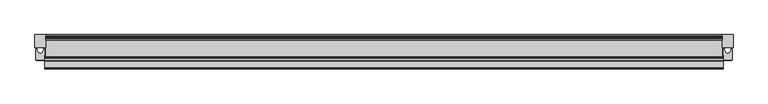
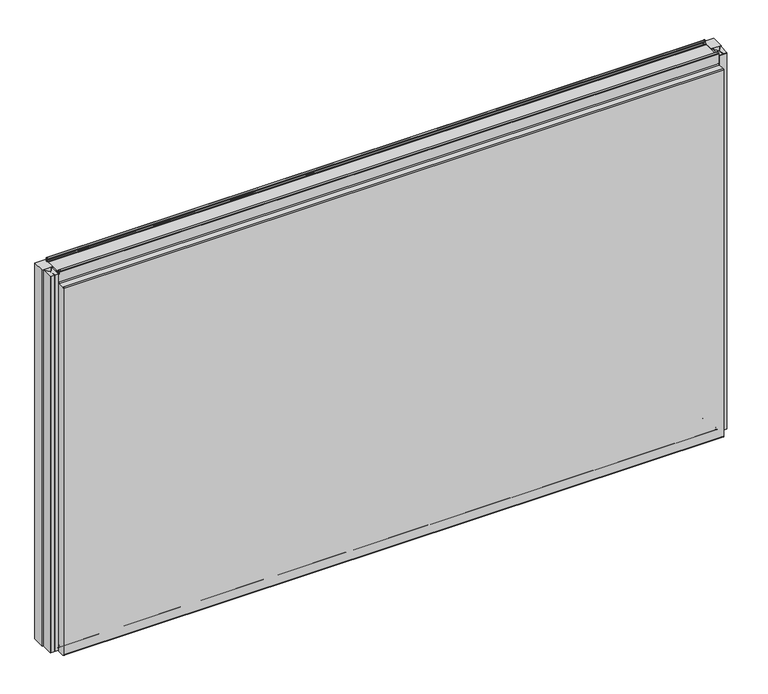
"""IFC4 building model written with IfcOpenShell, lengths in millimetres: plate geometry, Fronttop : Fronttop 100/1190."""

from ifc_helpers import new_model, si_unit, point, frame, frame_2d, origin, origin_with_axes, place, context, project, spatial, polyline, circle_curve, trimmed, segment, composite_curve, outline, extrude, source, transform, mapped, element, save
from ifc_brep_helpers import plane_surface, cylinder_surface, revolved_surface, advanced_brep


def plate_e143cc12(model_context):
    return source(origin(), model_context, "Body", "SolidModel", [
        advanced_brep(
        [(-986.5, -74.0, 1198.0), (-986.5, -74.0, 1190.0), (-986.5, -75.0, 1190.0), (-986.5, -75.0, 1198.0), (-986.5, -70.0, 1198.0), (-986.5, -70.0, 1194.0), (-986.5, -67.0, 1191.0), (-986.5, -65.0, 1191.0), (-986.5, -65.0, 1190.0), (-986.5, -67.0, 1190.0), (-986.5, -71.0, 1194.0), (-986.5, -71.0, 1198.0), (986.5, -75.0, 1198.0), (986.5, -75.0, 1190.0), (986.5, -74.0, 1190.0), (986.5, -74.0, 1198.0), (986.5, -71.0, 1198.0), (986.5, -71.0, 1194.0), (986.5, -67.0, 1190.0), (986.5, -65.0, 1190.0), (986.5, -65.0, 1191.0), (986.5, -67.0, 1191.0), (986.5, -70.0, 1194.0), (986.5, -70.0, 1198.0), (-986.5, -67.0, 2.0), (-986.5, -65.0, 2.0), (986.5, -65.0, 2.0), (986.5, -67.0, 2.0), (986.5, -69.0, 4.0), (-986.5, -69.0, 4.0), (986.5, -69.0, 8.0), (-986.5, -69.0, 8.0), (986.5, -76.0, 8.0), (-986.5, -76.0, 8.0), (986.5, -76.0, 0.0), (-986.5, -76.0, 0.0), (986.5, -79.0, -3.0), (-986.5, -79.0, -3.0), (986.5, -75.0, -3.0), (987.5, -75.0, -3.0), (987.5, -97.0, -3.0), (986.5, -97.0, -3.0), (-986.5, -97.0, -3.0), (-987.5, -97.0, -3.0), (-987.5, -75.0, -3.0), (-986.5, -75.0, -3.0), (986.5, -100.0, 0.0), (-986.5, -100.0, 0.0), (987.5, -100.0, 0.0), (987.5, -100.0, 1159.0), (986.5, -100.0, 1159.0), (-986.5, -100.0, 1159.0), (-987.5, -100.0, 1159.0), (-987.5, -100.0, 0.0), (986.5, -97.0, 1162.0), (-986.5, -97.0, 1162.0), (987.5, -97.0, 1162.0), (987.5, -78.0, 1162.0), (986.5, -78.0, 1162.0), (-986.5, -78.0, 1162.0), (-987.5, -78.0, 1162.0), (-987.5, -97.0, 1162.0), (986.5, -75.0, 1165.0), (-986.5, -75.0, 1165.0), (987.5, -75.0, 1165.0), (987.5, -75.0, 1190.0), (-987.5, -75.0, 1190.0), (-987.5, -75.0, 1165.0), (986.5, -74.0, 1165.0), (-986.5, -74.0, 1165.0), (986.5, -78.0, 1161.0), (-986.5, -78.0, 1161.0), (986.5, -97.0, 1161.0), (-986.5, -97.0, 1161.0), (986.5, -99.0, 1159.0), (-986.5, -99.0, 1159.0), (986.5, -99.0, 0.0), (-986.5, -99.0, 0.0), (986.5, -97.0, -2.0), (-986.5, -97.0, -2.0), (986.5, -79.0, -2.0), (-986.5, -79.0, -2.0), (986.5, -77.0, 0.0), (-986.5, -77.0, 0.0), (986.5, -77.0, 8.0), (-986.5, -77.0, 8.0), (986.5, -68.0, 8.0), (-986.5, -68.0, 8.0), (986.5, -68.0, 4.0), (-986.5, -68.0, 4.0), (986.5, -67.0, 3.0), (-986.5, -67.0, 3.0), (986.5, -65.0, 3.0), (-986.5, -65.0, 3.0), (987.5, -75.0, 0.0), (987.5, -60.0, 0.0), (987.5, -60.0, 1190.0), (986.5, -60.0, 1190.0), (986.5, -60.0, 0.0), (986.5, -75.0, 0.0), (-987.5, -60.0, 1190.0), (-987.5, -60.0, 0.0), (-987.5, -75.0, 0.0), (-986.5, -60.0, 1190.0), (-986.5, -75.0, 0.0), (-986.5, -60.0, 0.0)],
        [
            (0, 1),
            (1, 2),
            (2, 3),
            (3, 4, circle_curve(frame((-986.5, -72.5, 1198.0), z_axis=(-1.0, 0.0, 0.0), x_axis=(0.0, 1.0, 0.0)), 2.5)),
            (4, 5),
            (5, 6, circle_curve(frame((-986.5, -67.0, 1194.0), z_axis=(1.0, 0.0, 0.0), x_axis=(0.0, 1.0, 0.0)), 3.0)),
            (6, 7),
            (7, 8),
            (8, 9),
            (9, 10, circle_curve(frame((-986.5, -67.0, 1194.0), z_axis=(-1.0, 0.0, 0.0), x_axis=(0.0, 1.0, 0.0)), 4.0)),
            (10, 11),
            (11, 0, circle_curve(frame((-986.5, -72.5, 1198.0), z_axis=(1.0, 0.0, 0.0), x_axis=(0.0, 1.0, 0.0)), 1.5)),
            (12, 13),
            (13, 14),
            (14, 15),
            (15, 16, circle_curve(frame((986.5, -72.5, 1198.0), z_axis=(-1.0, 0.0, 0.0), x_axis=(0.0, 1.0, 0.0)), 1.5)),
            (16, 17),
            (17, 18, circle_curve(frame((986.5, -67.0, 1194.0), z_axis=(1.0, 0.0, 0.0), x_axis=(0.0, 1.0, 0.0)), 4.0)),
            (18, 19),
            (19, 20),
            (20, 21),
            (21, 22, circle_curve(frame((986.5, -67.0, 1194.0), z_axis=(-1.0, 0.0, 0.0), x_axis=(0.0, 1.0, 0.0)), 3.0)),
            (22, 23),
            (23, 12, circle_curve(frame((986.5, -72.5, 1198.0), z_axis=(1.0, 0.0, 0.0), x_axis=(0.0, 1.0, 0.0)), 2.5)),
            (24, 25),
            (25, 26),
            (26, 27),
            (27, 24),
            (27, 28, circle_curve(frame((986.5, -67.0, 4.0), z_axis=(-1.0, 0.0, 0.0), x_axis=(0.0, 1.0, 0.0)), 2.0)),
            (28, 29),
            (29, 24, circle_curve(frame((-986.5, -67.0, 4.0), z_axis=(1.0, 0.0, 0.0), x_axis=(0.0, 1.0, 0.0)), 2.0)),
            (28, 30),
            (30, 31),
            (31, 29),
            (30, 32, circle_curve(frame((986.5, -72.5, 8.0), z_axis=(1.0, 0.0, 0.0), x_axis=(0.0, 1.0, 0.0)), 3.5)),
            (32, 33),
            (33, 31, circle_curve(frame((-986.5, -72.5, 8.0), z_axis=(-1.0, 0.0, 0.0), x_axis=(0.0, 1.0, 0.0)), 3.5)),
            (32, 34),
            (34, 35),
            (35, 33),
            (34, 36, circle_curve(frame((986.5, -79.0, 0.0), z_axis=(-1.0, 0.0, 0.0), x_axis=(0.0, 1.0, 0.0)), 3.0)),
            (36, 37),
            (37, 35, circle_curve(frame((-986.5, -79.0, 0.0), z_axis=(1.0, 0.0, 0.0), x_axis=(0.0, 1.0, 0.0)), 3.0)),
            (36, 38),
            (38, 39),
            (39, 40),
            (40, 41),
            (41, 42),
            (42, 43),
            (43, 44),
            (44, 45),
            (45, 37),
            (41, 46, circle_curve(frame((986.5, -97.0, 0.0), z_axis=(-1.0, 0.0, 0.0), x_axis=(0.0, 1.0, 0.0)), 3.0)),
            (46, 47),
            (47, 42, circle_curve(frame((-986.5, -97.0, 0.0), z_axis=(1.0, 0.0, 0.0), x_axis=(0.0, 1.0, 0.0)), 3.0)),
            (46, 48),
            (48, 49),
            (49, 50),
            (50, 51),
            (51, 52),
            (52, 53),
            (53, 47),
            (50, 54, circle_curve(frame((986.5, -97.0, 1159.0), z_axis=(-1.0, 0.0, 0.0), x_axis=(0.0, 1.0, 0.0)), 3.0)),
            (54, 55),
            (55, 51, circle_curve(frame((-986.5, -97.0, 1159.0), z_axis=(1.0, 0.0, 0.0), x_axis=(0.0, 1.0, 0.0)), 3.0)),
            (54, 56),
            (56, 57),
            (57, 58),
            (58, 59),
            (59, 60),
            (60, 61),
            (61, 55),
            (58, 62, circle_curve(frame((986.5, -78.0, 1165.0), z_axis=(1.0, 0.0, 0.0), x_axis=(0.0, 1.0, 0.0)), 3.0)),
            (62, 63),
            (63, 59, circle_curve(frame((-986.5, -78.0, 1165.0), z_axis=(-1.0, 0.0, 0.0), x_axis=(0.0, 1.0, 0.0)), 3.0)),
            (62, 64),
            (64, 65),
            (65, 13),
            (12, 3),
            (2, 66),
            (66, 67),
            (67, 63),
            (23, 4),
            (22, 5),
            (21, 6),
            (20, 7),
            (19, 8),
            (19, 18),
            (18, 9),
            (9, 8),
            (17, 10),
            (16, 11),
            (15, 0),
            (14, 68),
            (68, 69),
            (69, 1),
            (68, 70, circle_curve(frame((986.5, -78.0, 1165.0), z_axis=(-1.0, 0.0, 0.0), x_axis=(0.0, 1.0, 0.0)), 4.0)),
            (70, 71),
            (71, 69, circle_curve(frame((-986.5, -78.0, 1165.0), z_axis=(1.0, 0.0, 0.0), x_axis=(0.0, 1.0, 0.0)), 4.0)),
            (70, 72),
            (72, 73),
            (73, 71),
            (72, 74, circle_curve(frame((986.5, -97.0, 1159.0), z_axis=(1.0, 0.0, 0.0), x_axis=(0.0, 1.0, 0.0)), 2.0)),
            (74, 75),
            (75, 73, circle_curve(frame((-986.5, -97.0, 1159.0), z_axis=(-1.0, 0.0, 0.0), x_axis=(0.0, 1.0, 0.0)), 2.0)),
            (74, 76),
            (76, 77),
            (77, 75),
            (76, 78, circle_curve(frame((986.5, -97.0, 0.0), z_axis=(1.0, 0.0, 0.0), x_axis=(0.0, 1.0, 0.0)), 2.0)),
            (78, 79),
            (79, 77, circle_curve(frame((-986.5, -97.0, 0.0), z_axis=(-1.0, 0.0, 0.0), x_axis=(0.0, 1.0, 0.0)), 2.0)),
            (78, 80),
            (80, 81),
            (81, 79),
            (80, 82, circle_curve(frame((986.5, -79.0, 0.0), z_axis=(1.0, 0.0, 0.0), x_axis=(0.0, 1.0, 0.0)), 2.0)),
            (82, 83),
            (83, 81, circle_curve(frame((-986.5, -79.0, 0.0), z_axis=(-1.0, 0.0, 0.0), x_axis=(0.0, 1.0, 0.0)), 2.0)),
            (82, 84),
            (84, 85),
            (85, 83),
            (84, 86, circle_curve(frame((986.5, -72.5, 8.0), z_axis=(-1.0, 0.0, 0.0), x_axis=(0.0, 1.0, 0.0)), 4.5)),
            (86, 87),
            (87, 85, circle_curve(frame((-986.5, -72.5, 8.0), z_axis=(1.0, 0.0, 0.0), x_axis=(0.0, 1.0, 0.0)), 4.5)),
            (86, 88),
            (88, 89),
            (89, 87),
            (88, 90, circle_curve(frame((986.5, -67.0, 4.0), z_axis=(1.0, 0.0, 0.0), x_axis=(0.0, 1.0, 0.0)), 1.0)),
            (90, 91),
            (91, 89, circle_curve(frame((-986.5, -67.0, 4.0), z_axis=(-1.0, 0.0, 0.0), x_axis=(0.0, 1.0, 0.0)), 1.0)),
            (90, 92),
            (92, 93),
            (93, 91),
            (25, 93),
            (92, 26),
            (64, 57, circle_curve(frame((987.5, -78.0, 1165.0), z_axis=(-1.0, 0.0, 0.0), x_axis=(0.0, -1.0, 0.0)), 3.0)),
            (56, 49, circle_curve(frame((987.5, -97.0, 1159.0), z_axis=(1.0, 0.0, 0.0), x_axis=(0.0, -1.0, 0.0)), 3.0)),
            (48, 40, circle_curve(frame((987.5, -97.0, 0.0), z_axis=(1.0, 0.0, 0.0), x_axis=(0.0, -1.0, 0.0)), 3.0)),
            (39, 94),
            (94, 95),
            (95, 96),
            (96, 65),
            (14, 18),
            (19, 97),
            (97, 98),
            (98, 99),
            (99, 38),
            (96, 97),
            (95, 98),
            (94, 99),
            (66, 100),
            (100, 101),
            (101, 102),
            (102, 44),
            (43, 53, circle_curve(frame((-987.5, -97.0, 0.0), z_axis=(-1.0, 0.0, 0.0), x_axis=(0.0, -1.0, 0.0)), 3.0)),
            (52, 61, circle_curve(frame((-987.5, -97.0, 1159.0), z_axis=(-1.0, 0.0, 0.0), x_axis=(0.0, -1.0, 0.0)), 3.0)),
            (60, 67, circle_curve(frame((-987.5, -78.0, 1165.0), z_axis=(1.0, 0.0, 0.0), x_axis=(0.0, -1.0, 0.0)), 3.0)),
            (103, 8),
            (9, 1),
            (45, 104),
            (104, 105),
            (105, 103),
            (103, 100),
            (105, 101),
            (104, 102),
        ],
        [
            plane_surface(frame((-986.5, 0.0, 0.0), z_axis=(-1.0, 0.0, 0.0), x_axis=(0.0, 0.0, 1.0))),
            plane_surface(frame((986.5, 0.0, 0.0), z_axis=(1.0, 0.0, 0.0), x_axis=(0.0, 0.0, 1.0))),
            plane_surface(frame((-986.5, -67.0, 2.0), z_axis=(0.0, 0.0, -1.0), x_axis=(1.0, 0.0, 0.0))),
            cylinder_surface(frame((-986.5, -67.0, 4.0), z_axis=(-1.0, 0.0, 0.0), x_axis=(0.0, 1.0, 0.0)), 2.0),
            plane_surface(frame((-986.5, -69.0, 8.0), z_axis=(0.0, -1.0, 0.0), x_axis=(1.0, 0.0, 0.0))),
            revolved_surface(polyline([(986.5, -69.0, 8.0), (-986.5, -69.0, 8.0)]), (-986.5, -72.5, 8.0), (1.0, 0.0, 0.0)),
            plane_surface(frame((-986.5, -76.0, 0.0), z_axis=(0.0, 1.0, 0.0), x_axis=(1.0, 0.0, 0.0))),
            cylinder_surface(frame((-986.5, -79.0, 0.0), z_axis=(-1.0, 0.0, 0.0), x_axis=(0.0, 1.0, 0.0)), 3.0),
            plane_surface(frame((-986.5, -97.0, -3.0), z_axis=(0.0, 0.0, -1.0), x_axis=(1.0, 0.0, 0.0))),
            cylinder_surface(frame((-986.5, -97.0, 0.0), z_axis=(-1.0, 0.0, 0.0), x_axis=(0.0, 1.0, 0.0)), 3.0),
            plane_surface(frame((-986.5, -100.0, 1159.0), z_axis=(0.0, -1.0, 0.0), x_axis=(1.0, 0.0, 0.0))),
            cylinder_surface(frame((-986.5, -97.0, 1159.0), z_axis=(-1.0, 0.0, 0.0), x_axis=(0.0, 1.0, 0.0)), 3.0),
            plane_surface(frame((-986.5, -78.0, 1162.0), z_axis=(0.0, 0.0, 1.0), x_axis=(1.0, 0.0, 0.0))),
            revolved_surface(polyline([(986.5, -75.0, 1165.0), (-986.5, -75.0, 1165.0)]), (-986.5, -78.0, 1165.0), (1.0, 0.0, 0.0)),
            plane_surface(frame((-986.5, -75.0, 1198.0), z_axis=(0.0, -1.0, 0.0), x_axis=(1.0, 0.0, 0.0))),
            cylinder_surface(frame((-986.5, -72.5, 1198.0), z_axis=(-1.0, 0.0, 0.0), x_axis=(0.0, 1.0, 0.0)), 2.5),
            plane_surface(frame((-986.5, -70.0, 1194.0), z_axis=(0.0, 1.0, 0.0), x_axis=(1.0, 0.0, 0.0))),
            revolved_surface(polyline([(986.5, -64.0, 1194.0), (-986.5, -64.0, 1194.0)]), (-986.5, -67.0, 1194.0), (1.0, 0.0, 0.0)),
            plane_surface(frame((-986.5, -65.0, 1191.0), z_axis=(0.0, 0.0, 1.0), x_axis=(1.0, 0.0, 0.0))),
            plane_surface(frame((-986.5, -65.0, 1190.0), z_axis=(0.0, 1.0, 0.0), x_axis=(1.0, 0.0, 0.0))),
            plane_surface(frame((-986.5, -67.0, 1190.0), z_axis=(0.0, 0.0, -1.0), x_axis=(1.0, 0.0, 0.0))),
            cylinder_surface(frame((-986.5, -67.0, 1194.0), z_axis=(-1.0, 0.0, 0.0), x_axis=(0.0, 1.0, 0.0)), 4.0),
            plane_surface(frame((-986.5, -71.0, 1198.0), z_axis=(0.0, -1.0, 0.0), x_axis=(1.0, 0.0, 0.0))),
            revolved_surface(polyline([(986.5, -71.0, 1198.0), (-986.5, -71.0, 1198.0)]), (-986.5, -72.5, 1198.0), (1.0, 0.0, 0.0)),
            plane_surface(frame((-986.5, -74.0, 1165.0), z_axis=(0.0, 1.0, 0.0), x_axis=(1.0, 0.0, 0.0))),
            cylinder_surface(frame((-986.5, -78.0, 1165.0), z_axis=(-1.0, 0.0, 0.0), x_axis=(0.0, 1.0, 0.0)), 4.0),
            plane_surface(frame((-986.5, -97.0, 1161.0), z_axis=(0.0, 0.0, -1.0), x_axis=(1.0, 0.0, 0.0))),
            revolved_surface(polyline([(986.5, -95.0, 1159.0), (-986.5, -95.0, 1159.0)]), (-986.5, -97.0, 1159.0), (1.0, 0.0, 0.0)),
            plane_surface(frame((-986.5, -99.0, 0.0), z_axis=(0.0, 1.0, 0.0), x_axis=(1.0, 0.0, 0.0))),
            revolved_surface(polyline([(986.5, -95.0, 0.0), (-986.5, -95.0, 0.0)]), (-986.5, -97.0, 0.0), (1.0, 0.0, 0.0)),
            plane_surface(frame((-986.5, -79.0, -2.0), z_axis=(0.0, 0.0, 1.0), x_axis=(1.0, 0.0, 0.0))),
            revolved_surface(polyline([(986.5, -77.0, 0.0), (-986.5, -77.0, 0.0)]), (-986.5, -79.0, 0.0), (1.0, 0.0, 0.0)),
            plane_surface(frame((-986.5, -77.0, 8.0), z_axis=(0.0, -1.0, 0.0), x_axis=(1.0, 0.0, 0.0))),
            cylinder_surface(frame((-986.5, -72.5, 8.0), z_axis=(-1.0, 0.0, 0.0), x_axis=(0.0, 1.0, 0.0)), 4.5),
            plane_surface(frame((-986.5, -68.0, 4.0), z_axis=(0.0, 1.0, 0.0), x_axis=(1.0, 0.0, 0.0))),
            revolved_surface(polyline([(986.5, -66.0, 4.0), (-986.5, -66.0, 4.0)]), (-986.5, -67.0, 4.0), (1.0, 0.0, 0.0)),
            plane_surface(frame((-986.5, -65.0, 3.0), z_axis=(0.0, 0.0, 1.0), x_axis=(1.0, 0.0, 0.0))),
            plane_surface(frame((-986.5, -65.0, 2.0), z_axis=(0.0, 1.0, 0.0), x_axis=(1.0, 0.0, 0.0))),
            plane_surface(frame((987.5, -75.0, 1190.0), z_axis=(1.0, 0.0, 0.0), x_axis=(0.0, 1.0, 0.0))),
            plane_surface(frame((986.5, -75.0, 1190.0), z_axis=(-1.0, 0.0, 0.0), x_axis=(0.0, -1.0, 0.0))),
            plane_surface(frame((987.5, -75.0, 1190.0), z_axis=(0.0, 0.0, 1.0), x_axis=(-1.0, 0.0, 0.0))),
            plane_surface(frame((987.5, -60.0, 1190.0), z_axis=(0.0, 1.0, 0.0), x_axis=(-1.0, 0.0, 0.0))),
            plane_surface(frame((987.5, -60.0, 0.0), z_axis=(0.0, 0.0, -1.0), x_axis=(-1.0, 0.0, 0.0))),
            cylinder_surface(frame((986.5, -97.0, 0.0), z_axis=(1.0, 0.0, 0.0), x_axis=(0.0, -1.0, 0.0)), 3.0),
            cylinder_surface(frame((986.5, -97.0, 1159.0), z_axis=(1.0, 0.0, 0.0), x_axis=(0.0, -1.0, 0.0)), 3.0),
            revolved_surface(polyline([(986.5, -81.0, 1165.0), (987.5, -81.0, 1165.0)]), (986.5, -78.0, 1165.0), (-1.0, 0.0, 0.0)),
            plane_surface(frame((-987.5, -75.0, 1190.0), z_axis=(-1.0, 0.0, 0.0), x_axis=(0.0, -1.0, 0.0))),
            plane_surface(frame((-986.5, -75.0, 1190.0), z_axis=(1.0, 0.0, 0.0), x_axis=(0.0, 1.0, 0.0))),
            plane_surface(frame((-986.5, -75.0, 1190.0), z_axis=(0.0, 0.0, 1.0), x_axis=(-1.0, 0.0, 0.0))),
            plane_surface(frame((-986.5, -60.0, 1190.0), z_axis=(0.0, 1.0, 0.0), x_axis=(-1.0, 0.0, 0.0))),
            plane_surface(frame((-986.5, -60.0, 0.0), z_axis=(0.0, 0.0, -1.0), x_axis=(-1.0, 0.0, 0.0))),
            cylinder_surface(frame((-987.5, -97.0, 0.0), z_axis=(1.0, 0.0, 0.0), x_axis=(0.0, -1.0, 0.0)), 3.0),
            cylinder_surface(frame((-987.5, -97.0, 1159.0), z_axis=(1.0, 0.0, 0.0), x_axis=(0.0, -1.0, 0.0)), 3.0),
            revolved_surface(polyline([(-987.5, -81.0, 1165.0), (-986.5, -81.0, 1165.0)]), (-987.5, -78.0, 1165.0), (-1.0, 0.0, 0.0)),
            plane_surface(frame((987.5, -75.0, 0.0), z_axis=(0.0, 1.0, 0.0), x_axis=(-1.0, 0.0, 0.0))),
            plane_surface(frame((-986.5, -75.0, 0.0), z_axis=(0.0, 1.0, 0.0), x_axis=(-1.0, 0.0, 0.0))),
        ],
        [
            (0, [[1, 2, 3, 4, 5, 6, 7, 8, 9, 10, 11, 12]]),
            (1, [[13, 14, 15, 16, 17, 18, 19, 20, 21, 22, 23, 24]]),
            (2, [[25, 26, 27, 28]]),
            (3, [[29, 30, 31, -28]]),
            (4, [[32, 33, 34, -30]]),
            (5, [[35, 36, 37, -33]]),
            (6, [[38, 39, 40, -36]]),
            (7, [[41, 42, 43, -39]]),
            (8, [[44, 45, 46, 47, 48, 49, 50, 51, 52, -42]]),
            (9, [[53, 54, 55, -48]]),
            (10, [[56, 57, 58, 59, 60, 61, 62, -54]]),
            (11, [[63, 64, 65, -59]]),
            (12, [[66, 67, 68, 69, 70, 71, 72, -64]]),
            (13, [[73, 74, 75, -69]]),
            (14, [[76, 77, 78, -13, 79, -3, 80, 81, 82, -74]]),
            (15, [[-79, -24, 83, -4]]),
            (16, [[-83, -23, 84, -5]]),
            (17, [[-84, -22, 85, -6]]),
            (18, [[-85, -21, 86, -7]]),
            (19, [[-86, -20, 87, -8]]),
            (20, [[88, 89, 90, -87]]),
            (21, [[-89, -18, 91, -10]]),
            (22, [[-91, -17, 92, -11]]),
            (23, [[-92, -16, 93, -12]]),
            (24, [[-15, 94, 95, 96, -1, -93]]),
            (25, [[97, 98, 99, -95]]),
            (26, [[100, 101, 102, -98]]),
            (27, [[103, 104, 105, -101]]),
            (28, [[106, 107, 108, -104]]),
            (29, [[109, 110, 111, -107]]),
            (30, [[112, 113, 114, -110]]),
            (31, [[115, 116, 117, -113]]),
            (32, [[118, 119, 120, -116]]),
            (33, [[121, 122, 123, -119]]),
            (34, [[124, 125, 126, -122]]),
            (35, [[127, 128, 129, -125]]),
            (36, [[130, 131, 132, -128]]),
            (37, [[133, -131, 134, -26]]),
            (38, [[-77, 135, -67, 136, -57, 137, -46, 138, 139, 140, 141]]),
            (39, [[-44, -41, -38, -35, -32, -29, -27, -134, -130, -127, -124, -121, -118, -115, -112, -109, -106, -103, -100, -97, -94, 142, -88, 143, 144, 145, 146]]),
            (40, [[147, -143, -19, -142, -14, -78, -141]]),
            (41, [[148, -144, -147, -140]]),
            (42, [[149, -145, -148, -139]]),
            (43, [[-56, -53, -47, -137]]),
            (44, [[-66, -63, -58, -136]]),
            (45, [[-76, -73, -68, -135]]),
            (46, [[150, 151, 152, 153, -50, 154, -61, 155, -71, 156, -81]]),
            (47, [[157, -90, 158, -96, -99, -102, -105, -108, -111, -114, -117, -120, -123, -126, -129, -132, -133, -25, -31, -34, -37, -40, -43, -52, 159, 160, 161]]),
            (48, [[-80, -2, -158, -9, -157, 162, -150]]),
            (49, [[-162, -161, 163, -151]]),
            (50, [[-163, -160, 164, -152]]),
            (51, [[-49, -55, -62, -154]]),
            (52, [[-60, -65, -72, -155]]),
            (53, [[-70, -75, -82, -156]]),
            (54, [[-45, -146, -149, -138]]),
            (55, [[-164, -159, -51, -153]]),
        ],
    ),
        extrude(outline(composite_curve([segment(polyline([(-1012.5001545, -73.5), (-1012.5001545, -40.0), (-1009.75, -40.0), (-1009.75, -42.5)]), True, "CONTINUOUS"), segment(trimmed(circle_curve(frame_2d((-991.9661979, -39.3183984)), 18.0661619), [point((-1009.75, -42.5))], [point((-1000.0, -55.5))], True, "CARTESIAN"), True, "CONTINUOUS"), segment(trimmed(circle_curve(frame_2d((-1008.0338021, -39.3183984)), 18.0661619), [point((-1000.0, -55.5))], [point((-990.25, -42.5))], True, "CARTESIAN"), True, "CONTINUOUS"), segment(polyline([(-990.25, -42.5), (-990.25, -40.0), (-987.4998455, -40.0), (-987.4998455, -73.5), (-999.25, -73.5), (-999.25, -57.5), (-1000.75, -57.5), (-1000.75, -73.5), (-1012.5001545, -73.5)]), True, "CONTINUOUS")], self_intersect=False)), origin_with_axes(), (0.0, 0.0, 1.0), 1190.0),
        extrude(outline(polyline([(-984.5, 0.0), (-984.5, -38.0), (-1015.5, -38.0), (-1015.5, 0.0), (-984.5, 0.0)])), origin_with_axes(), (0.0, 0.0, 1.0), 1190.0),
        extrude(outline(polyline([(-1011.5051154, -75.0), (-1011.5051154, -73.5), (-1000.65, -73.5), (-1000.65, -59.0759655), (-999.3497504, -59.0759655), (-999.3497504, -73.5), (-988.4948846, -73.5), (-988.4948846, -75.0), (-1011.5051154, -75.0)])), origin_with_axes(), (0.0, 0.0, 1.0), 1190.0),
        extrude(outline(composite_curve([segment(polyline([(987.4998455, -73.5), (987.4998455, -40.0), (990.25, -40.0), (990.25, -42.5)]), True, "CONTINUOUS"), segment(trimmed(circle_curve(frame_2d((1008.0338021, -39.3183984)), 18.0661619), [point((990.25, -42.5))], [point((1000.0, -55.5))], True, "CARTESIAN"), True, "CONTINUOUS"), segment(trimmed(circle_curve(frame_2d((991.9661979, -39.3183984)), 18.0661619), [point((1000.0, -55.5))], [point((1009.75, -42.5))], True, "CARTESIAN"), True, "CONTINUOUS"), segment(polyline([(1009.75, -42.5), (1009.75, -40.0), (1012.5001545, -40.0), (1012.5001545, -73.5), (1000.75, -73.5), (1000.75, -57.5), (999.25, -57.5), (999.25, -73.5), (987.4998455, -73.5)]), True, "CONTINUOUS")], self_intersect=False)), origin_with_axes(), (0.0, 0.0, 1.0), 1190.0),
        extrude(outline(polyline([(1015.5, 0.0), (1015.5, -38.0), (984.5, -38.0), (984.5, 0.0), (1015.5, 0.0)])), origin_with_axes(), (0.0, 0.0, 1.0), 1190.0),
        extrude(outline(polyline([(988.4948846, -75.0), (988.4948846, -73.5), (999.35, -73.5), (999.35, -59.0759655), (1000.6502496, -59.0759655), (1000.6502496, -73.5), (1011.5051154, -73.5), (1011.5051154, -75.0), (988.4948846, -75.0)])), origin_with_axes(), (0.0, 0.0, 1.0), 1190.0),
        advanced_brep(
        [(-984.5, -13.0, 1191.0), (-984.5, -10.0, 1194.0), (-984.5, -10.0, 1198.0), (-984.5, -5.0, 1198.0), (-984.5, -5.0, 1189.5), (-984.5, -2.2239212, 1187.0152907), (-984.5, 0.0, 1185.0), (-984.5, 0.0, -0.5), (-984.5, -4.0, -0.5), (-984.5, -4.0, 8.0), (-984.5, -11.0, 8.0), (-984.5, -11.0, 4.0), (-984.5, -13.0, 2.0), (-984.5, -15.0, 2.0), (-984.5, -15.0, 3.0), (-984.5, -13.0, 3.0), (-984.5, -12.0, 4.0), (-984.5, -12.0, 8.0), (-984.5, -3.0, 8.0), (-984.5, -3.0, -0.5), (-984.5, -1.0, -0.5), (-984.5, -1.0, 1185.0), (-984.5, -2.1104315, 1185.9938837), (-984.5, -6.0, 1189.5), (-984.5, -6.0, 1198.0), (-984.5, -9.0, 1198.0), (-984.5, -9.0, 1194.0), (-984.5, -13.0, 1190.0), (-984.5, -15.0, 1190.0), (-984.5, -15.0, 1191.0), (984.5, -13.0, 1191.0), (984.5, -15.0, 1191.0), (984.5, -15.0, 1190.0), (984.5, -13.0, 1190.0), (984.5, -9.0, 1194.0), (984.5, -9.0, 1198.0), (984.5, -6.0, 1198.0), (984.5, -6.0, 1189.5), (984.5, -2.1134897, 1186.0214069), (984.5, -1.0, 1185.0), (984.5, -1.0, -0.5), (984.5, -3.0, -0.5), (984.5, -3.0, 8.0), (984.5, -12.0, 8.0), (984.5, -12.0, 4.0), (984.5, -13.0, 3.0), (984.5, -15.0, 3.0), (984.5, -15.0, 2.0), (984.5, -13.0, 2.0), (984.5, -11.0, 4.0), (984.5, -11.0, 8.0), (984.5, -4.0, 8.0), (984.5, -4.0, -0.5), (984.5, 0.0, -0.5), (984.5, 0.0, 1185.0), (984.5, -2.220863, 1186.9877675), (984.5, -5.0, 1189.5), (984.5, -5.0, 1198.0), (984.5, -10.0, 1198.0), (984.5, -10.0, 1194.0)],
        [
            (0, 1, circle_curve(frame((-984.5, -13.0, 1194.0), z_axis=(1.0, 0.0, 0.0), x_axis=(0.0, 1.0, 0.0)), 3.0)),
            (1, 2),
            (2, 3, circle_curve(frame((-984.5, -7.5, 1198.0), z_axis=(-1.0, 0.0, 0.0), x_axis=(0.0, 1.0, 0.0)), 2.5)),
            (3, 4),
            (4, 5, circle_curve(frame((-984.5, -2.5, 1189.5), z_axis=(1.0, 0.0, 0.0), x_axis=(0.0, 1.0, 0.0)), 2.5)),
            (5, 6, circle_curve(frame((-984.5, -2.0, 1185.0), z_axis=(-1.0, 0.0, 0.0), x_axis=(0.0, 1.0, 0.0)), 2.0)),
            (6, 7),
            (7, 8, circle_curve(frame((-984.5, -2.0, -0.5), z_axis=(-1.0, 0.0, 0.0), x_axis=(0.0, 1.0, 0.0)), 2.0)),
            (8, 9),
            (9, 10, circle_curve(frame((-984.5, -7.5, 8.0), z_axis=(1.0, 0.0, 0.0), x_axis=(0.0, 1.0, 0.0)), 3.5)),
            (10, 11),
            (11, 12, circle_curve(frame((-984.5, -13.0, 4.0), z_axis=(-1.0, 0.0, 0.0), x_axis=(0.0, 1.0, 0.0)), 2.0)),
            (12, 13),
            (13, 14),
            (14, 15),
            (15, 16, circle_curve(frame((-984.5, -13.0, 4.0), z_axis=(1.0, 0.0, 0.0), x_axis=(0.0, 1.0, 0.0)), 1.0)),
            (16, 17),
            (17, 18, circle_curve(frame((-984.5, -7.5, 8.0), z_axis=(-1.0, 0.0, 0.0), x_axis=(0.0, 1.0, 0.0)), 4.5)),
            (18, 19),
            (19, 20, circle_curve(frame((-984.5, -2.0, -0.5), z_axis=(1.0, 0.0, 0.0), x_axis=(0.0, 1.0, 0.0)), 1.0)),
            (20, 21),
            (21, 22, circle_curve(frame((-984.5, -2.0, 1185.0), z_axis=(1.0, 0.0, 0.0), x_axis=(0.0, 1.0, 0.0)), 1.0)),
            (22, 23, circle_curve(frame((-984.5, -2.5, 1189.5), z_axis=(-1.0, 0.0, 0.0), x_axis=(0.0, 1.0, 0.0)), 3.5)),
            (23, 24),
            (24, 25, circle_curve(frame((-984.5, -7.5, 1198.0), z_axis=(1.0, 0.0, 0.0), x_axis=(0.0, 1.0, 0.0)), 1.5)),
            (25, 26),
            (26, 27, circle_curve(frame((-984.5, -13.0, 1194.0), z_axis=(-1.0, 0.0, 0.0), x_axis=(0.0, 1.0, 0.0)), 4.0)),
            (27, 28),
            (28, 29),
            (29, 0),
            (30, 31),
            (31, 32),
            (32, 33),
            (33, 34, circle_curve(frame((984.5, -13.0, 1194.0), z_axis=(1.0, 0.0, 0.0), x_axis=(0.0, 1.0, 0.0)), 4.0)),
            (34, 35),
            (35, 36, circle_curve(frame((984.5, -7.5, 1198.0), z_axis=(-1.0, 0.0, 0.0), x_axis=(0.0, 1.0, 0.0)), 1.5)),
            (36, 37),
            (37, 38, circle_curve(frame((984.5, -2.5, 1189.5), z_axis=(1.0, 0.0, 0.0), x_axis=(0.0, 1.0, 0.0)), 3.5)),
            (38, 39, circle_curve(frame((984.5, -2.0, 1185.0), z_axis=(-1.0, 0.0, 0.0), x_axis=(0.0, 1.0, 0.0)), 1.0)),
            (39, 40),
            (40, 41, circle_curve(frame((984.5, -2.0, -0.5), z_axis=(-1.0, 0.0, 0.0), x_axis=(0.0, 1.0, 0.0)), 1.0)),
            (41, 42),
            (42, 43, circle_curve(frame((984.5, -7.5, 8.0), z_axis=(1.0, 0.0, 0.0), x_axis=(0.0, 1.0, 0.0)), 4.5)),
            (43, 44),
            (44, 45, circle_curve(frame((984.5, -13.0, 4.0), z_axis=(-1.0, 0.0, 0.0), x_axis=(0.0, 1.0, 0.0)), 1.0)),
            (45, 46),
            (46, 47),
            (47, 48),
            (48, 49, circle_curve(frame((984.5, -13.0, 4.0), z_axis=(1.0, 0.0, 0.0), x_axis=(0.0, 1.0, 0.0)), 2.0)),
            (49, 50),
            (50, 51, circle_curve(frame((984.5, -7.5, 8.0), z_axis=(-1.0, 0.0, 0.0), x_axis=(0.0, 1.0, 0.0)), 3.5)),
            (51, 52),
            (52, 53, circle_curve(frame((984.5, -2.0, -0.5), z_axis=(1.0, 0.0, 0.0), x_axis=(0.0, 1.0, 0.0)), 2.0)),
            (53, 54),
            (54, 55, circle_curve(frame((984.5, -2.0, 1185.0), z_axis=(1.0, 0.0, 0.0), x_axis=(0.0, 1.0, 0.0)), 2.0)),
            (55, 56, circle_curve(frame((984.5, -2.5, 1189.5), z_axis=(-1.0, 0.0, 0.0), x_axis=(0.0, 1.0, 0.0)), 2.5)),
            (56, 57),
            (57, 58, circle_curve(frame((984.5, -7.5, 1198.0), z_axis=(1.0, 0.0, 0.0), x_axis=(0.0, 1.0, 0.0)), 2.5)),
            (58, 59),
            (59, 30, circle_curve(frame((984.5, -13.0, 1194.0), z_axis=(-1.0, 0.0, 0.0), x_axis=(0.0, 1.0, 0.0)), 3.0)),
            (29, 31),
            (30, 0),
            (28, 32),
            (27, 33),
            (26, 34),
            (25, 35),
            (24, 36),
            (23, 37),
            (22, 38),
            (21, 39),
            (20, 40),
            (19, 41),
            (18, 42),
            (17, 43),
            (16, 44),
            (15, 45),
            (14, 46),
            (13, 47),
            (12, 48),
            (11, 49),
            (10, 50),
            (9, 51),
            (8, 52),
            (7, 53),
            (6, 54),
            (5, 55),
            (4, 56),
            (3, 57),
            (2, 58),
            (1, 59),
        ],
        [
            plane_surface(frame((-984.5, 0.0, 0.0), z_axis=(-1.0, 0.0, 0.0), x_axis=(0.0, 0.0, 1.0))),
            plane_surface(frame((984.5, 0.0, 0.0), z_axis=(1.0, 0.0, 0.0), x_axis=(0.0, 0.0, 1.0))),
            plane_surface(frame((-984.5, -13.0, 1191.0), z_axis=(0.0, 0.0, 1.0), x_axis=(1.0, 0.0, 0.0))),
            plane_surface(frame((-984.5, -15.0, 1191.0), z_axis=(0.0, -1.0, 0.0), x_axis=(1.0, 0.0, 0.0))),
            plane_surface(frame((-984.5, -15.0, 1190.0), z_axis=(0.0, 0.0, -1.0), x_axis=(1.0, 0.0, 0.0))),
            cylinder_surface(frame((-984.5, -13.0, 1194.0), z_axis=(-1.0, 0.0, 0.0), x_axis=(0.0, 1.0, 0.0)), 4.0),
            plane_surface(frame((-984.5, -9.0, 1194.0), z_axis=(0.0, 1.0, 0.0), x_axis=(1.0, 0.0, 0.0))),
            revolved_surface(polyline([(984.5, -6.0, 1198.0), (-984.5, -6.0, 1198.0)]), (-984.5, -7.5, 1198.0), (1.0, 0.0, 0.0)),
            plane_surface(frame((-984.5, -6.0, 1198.0), z_axis=(0.0, -1.0, 0.0), x_axis=(1.0, 0.0, 0.0))),
            cylinder_surface(frame((-984.5, -2.5, 1189.5), z_axis=(-1.0, 0.0, 0.0), x_axis=(0.0, 1.0, 0.0)), 3.5),
            revolved_surface(polyline([(984.5, -1.0, 1185.0), (-984.5, -1.0, 1185.0)]), (-984.5, -2.0, 1185.0), (1.0, 0.0, 0.0)),
            plane_surface(frame((-984.5, -1.0, 1185.0), z_axis=(0.0, -1.0, 0.0), x_axis=(1.0, 0.0, 0.0))),
            revolved_surface(polyline([(984.5, -1.0, -0.5), (-984.5, -1.0, -0.5)]), (-984.5, -2.0, -0.5), (1.0, 0.0, 0.0)),
            plane_surface(frame((-984.5, -3.0, -0.5), z_axis=(0.0, 1.0, 0.0), x_axis=(1.0, 0.0, 0.0))),
            cylinder_surface(frame((-984.5, -7.5, 8.0), z_axis=(-1.0, 0.0, 0.0), x_axis=(0.0, 1.0, 0.0)), 4.5),
            plane_surface(frame((-984.5, -12.0, 8.0), z_axis=(0.0, -1.0, 0.0), x_axis=(1.0, 0.0, 0.0))),
            revolved_surface(polyline([(984.5, -12.0, 4.0), (-984.5, -12.0, 4.0)]), (-984.5, -13.0, 4.0), (1.0, 0.0, 0.0)),
            plane_surface(frame((-984.5, -13.0, 3.0), z_axis=(0.0, 0.0, 1.0), x_axis=(1.0, 0.0, 0.0))),
            plane_surface(frame((-984.5, -15.0, 3.0), z_axis=(0.0, -1.0, 0.0), x_axis=(1.0, 0.0, 0.0))),
            plane_surface(frame((-984.5, -15.0, 2.0), z_axis=(0.0, 0.0, -1.0), x_axis=(1.0, 0.0, 0.0))),
            cylinder_surface(frame((-984.5, -13.0, 4.0), z_axis=(-1.0, 0.0, 0.0), x_axis=(0.0, 1.0, 0.0)), 2.0),
            plane_surface(frame((-984.5, -11.0, 4.0), z_axis=(0.0, 1.0, 0.0), x_axis=(1.0, 0.0, 0.0))),
            revolved_surface(polyline([(984.5, -4.0, 8.0), (-984.5, -4.0, 8.0)]), (-984.5, -7.5, 8.0), (1.0, 0.0, 0.0)),
            plane_surface(frame((-984.5, -4.0, 8.0), z_axis=(0.0, -1.0, 0.0), x_axis=(1.0, 0.0, 0.0))),
            cylinder_surface(frame((-984.5, -2.0, -0.5), z_axis=(-1.0, 0.0, 0.0), x_axis=(0.0, 1.0, 0.0)), 2.0),
            plane_surface(frame((-984.5, 0.0, -0.5), z_axis=(0.0, 1.0, 0.0), x_axis=(1.0, 0.0, 0.0))),
            cylinder_surface(frame((-984.5, -2.0, 1185.0), z_axis=(-1.0, 0.0, 0.0), x_axis=(0.0, 1.0, 0.0)), 2.0),
            revolved_surface(polyline([(984.5, 0.0, 1189.5), (-984.5, 0.0, 1189.5)]), (-984.5, -2.5, 1189.5), (1.0, 0.0, 0.0)),
            plane_surface(frame((-984.5, -5.0, 1189.5), z_axis=(0.0, 1.0, 0.0), x_axis=(1.0, 0.0, 0.0))),
            cylinder_surface(frame((-984.5, -7.5, 1198.0), z_axis=(-1.0, 0.0, 0.0), x_axis=(0.0, 1.0, 0.0)), 2.5),
            plane_surface(frame((-984.5, -10.0, 1198.0), z_axis=(0.0, -1.0, 0.0), x_axis=(1.0, 0.0, 0.0))),
            revolved_surface(polyline([(984.5, -10.0, 1194.0), (-984.5, -10.0, 1194.0)]), (-984.5, -13.0, 1194.0), (1.0, 0.0, 0.0)),
        ],
        [
            (0, [[1, 2, 3, 4, 5, 6, 7, 8, 9, 10, 11, 12, 13, 14, 15, 16, 17, 18, 19, 20, 21, 22, 23, 24, 25, 26, 27, 28, 29, 30]]),
            (1, [[31, 32, 33, 34, 35, 36, 37, 38, 39, 40, 41, 42, 43, 44, 45, 46, 47, 48, 49, 50, 51, 52, 53, 54, 55, 56, 57, 58, 59, 60]]),
            (2, [[61, -31, 62, -30]]),
            (3, [[63, -32, -61, -29]]),
            (4, [[64, -33, -63, -28]]),
            (5, [[65, -34, -64, -27]]),
            (6, [[66, -35, -65, -26]]),
            (7, [[67, -36, -66, -25]]),
            (8, [[68, -37, -67, -24]]),
            (9, [[69, -38, -68, -23]]),
            (10, [[70, -39, -69, -22]]),
            (11, [[71, -40, -70, -21]]),
            (12, [[72, -41, -71, -20]]),
            (13, [[73, -42, -72, -19]]),
            (14, [[74, -43, -73, -18]]),
            (15, [[75, -44, -74, -17]]),
            (16, [[76, -45, -75, -16]]),
            (17, [[77, -46, -76, -15]]),
            (18, [[78, -47, -77, -14]]),
            (19, [[79, -48, -78, -13]]),
            (20, [[80, -49, -79, -12]]),
            (21, [[81, -50, -80, -11]]),
            (22, [[82, -51, -81, -10]]),
            (23, [[83, -52, -82, -9]]),
            (24, [[84, -53, -83, -8]]),
            (25, [[85, -54, -84, -7]]),
            (26, [[86, -55, -85, -6]]),
            (27, [[87, -56, -86, -5]]),
            (28, [[88, -57, -87, -4]]),
            (29, [[89, -58, -88, -3]]),
            (30, [[90, -59, -89, -2]]),
            (31, [[-62, -60, -90, -1]]),
        ],
    ),
        extrude(outline(composite_curve([segment(polyline([(-15.0, 3.0), (-15.0, 0.0), (-65.0, 0.0), (-65.0, 3.0), (-67.0, 3.0)]), True, "CONTINUOUS"), segment(trimmed(circle_curve(frame_2d((-67.0, 4.0)), 1.0), [point((-67.0, 3.0))], [point((-68.0, 4.0))], False, "CARTESIAN"), True, "CONTINUOUS"), segment(polyline([(-68.0, 4.0), (-68.0, 8.0)]), True, "CONTINUOUS"), segment(trimmed(circle_curve(frame_2d((-72.5, 8.0)), 4.5), [point((-68.0, 8.0))], [point((-77.0, 8.0))], True, "CARTESIAN"), True, "CONTINUOUS"), segment(polyline([(-77.0, 8.0), (-77.0, 0.0)]), True, "CONTINUOUS"), segment(trimmed(circle_curve(frame_2d((-79.0, 0.0)), 2.0), [point((-77.0, 0.0))], [point((-79.0, -2.0))], False, "CARTESIAN"), True, "CONTINUOUS"), segment(polyline([(-79.0, -2.0), (-97.0, -2.0)]), True, "CONTINUOUS"), segment(trimmed(circle_curve(frame_2d((-97.0, 0.0)), 2.0), [point((-97.0, -2.0))], [point((-99.0, 0.0))], False, "CARTESIAN"), True, "CONTINUOUS"), segment(polyline([(-99.0, 0.0), (-99.0, 1159.0)]), True, "CONTINUOUS"), segment(trimmed(circle_curve(frame_2d((-97.0, 1159.0)), 2.0), [point((-99.0, 1159.0))], [point((-97.0, 1161.0))], False, "CARTESIAN"), True, "CONTINUOUS"), segment(polyline([(-97.0, 1161.0), (-78.0, 1161.0)]), True, "CONTINUOUS"), segment(trimmed(circle_curve(frame_2d((-78.0, 1165.0)), 4.0), [point((-78.0, 1161.0))], [point((-74.0, 1165.0))], True, "CARTESIAN"), True, "CONTINUOUS"), segment(polyline([(-74.0, 1165.0), (-74.0, 1198.0)]), True, "CONTINUOUS"), segment(trimmed(circle_curve(frame_2d((-72.5, 1198.0)), 1.5), [point((-74.0, 1198.0))], [point((-71.0, 1198.0))], False, "CARTESIAN"), True, "CONTINUOUS"), segment(polyline([(-71.0, 1198.0), (-71.0, 1194.0)]), True, "CONTINUOUS"), segment(trimmed(circle_curve(frame_2d((-67.0, 1194.0)), 4.0), [point((-71.0, 1194.0))], [point((-67.0, 1190.0))], True, "CARTESIAN"), True, "CONTINUOUS"), segment(polyline([(-67.0, 1190.0), (-13.0, 1190.0)]), True, "CONTINUOUS"), segment(trimmed(circle_curve(frame_2d((-13.0, 1194.0)), 4.0), [point((-13.0, 1190.0))], [point((-9.0, 1194.0))], True, "CARTESIAN"), True, "CONTINUOUS"), segment(polyline([(-9.0, 1194.0), (-9.0, 1198.0)]), True, "CONTINUOUS"), segment(trimmed(circle_curve(frame_2d((-7.5, 1198.0)), 1.5), [point((-9.0, 1198.0))], [point((-6.0, 1198.0))], False, "CARTESIAN"), True, "CONTINUOUS"), segment(polyline([(-6.0, 1198.0), (-6.0, 1189.5)]), True, "CONTINUOUS"), segment(trimmed(circle_curve(frame_2d((-2.5, 1189.5)), 3.5), [point((-6.0, 1189.5))], [point((-2.1111111, 1186.021672))], True, "CARTESIAN"), True, "CONTINUOUS"), segment(trimmed(circle_curve(frame_2d((-2.0, 1185.0278643)), 1.0), [point((-2.1111111, 1186.021672))], [point((-1.0, 1185.0278643))], False, "CARTESIAN"), True, "CONTINUOUS"), segment(polyline([(-1.0, 1185.0278643), (-1.0, -0.5)]), True, "CONTINUOUS"), segment(trimmed(circle_curve(frame_2d((-2.0, -0.5)), 1.0), [point((-1.0, -0.5))], [point((-3.0, -0.5))], False, "CARTESIAN"), True, "CONTINUOUS"), segment(polyline([(-3.0, -0.5), (-3.0, 8.0)]), True, "CONTINUOUS"), segment(trimmed(circle_curve(frame_2d((-7.5, 8.0)), 4.5), [point((-3.0, 8.0))], [point((-12.0, 8.0))], True, "CARTESIAN"), True, "CONTINUOUS"), segment(polyline([(-12.0, 8.0), (-12.0, 4.0)]), True, "CONTINUOUS"), segment(trimmed(circle_curve(frame_2d((-13.0, 4.0)), 1.0), [point((-12.0, 4.0))], [point((-13.0, 3.0))], False, "CARTESIAN"), True, "CONTINUOUS"), segment(polyline([(-13.0, 3.0), (-15.0, 3.0)]), True, "CONTINUOUS")], self_intersect=False)), frame((-984.5, 0.0, 0.0), z_axis=(1.0, 0.0, 0.0), x_axis=(0.0, 1.0, 0.0)), (0.0, 0.0, 1.0), 1969.0),
    ])


if __name__ == "__main__":
    model = new_model("IFC4")
    model_context = context("Model", 3, world=origin())
    ifc_project = project(units=[si_unit("LENGTHUNIT", "METRE", prefix="MILLI")], contexts=[model_context])
    site = spatial("IfcSite", under=ifc_project)
    building = spatial("IfcBuilding", under=site)
    placement = place(None, origin())
    plate_shape = plate_e143cc12(model_context)
    element("IfcPlate", 1, ObjectType="Fronttop : Fronttop 100/1190", at=placement, inside=building, context=model_context, shape_type="MappedRepresentation", body=[
        mapped(plate_shape, transform((0.0, 0.0, 0.0), x_axis=(1.0, 0.0, 0.0), y_axis=(0.0, 1.0, 0.0), z_axis=(0.0, 0.0, 1.0))),
    ])
    save(model, "model.ifc")
